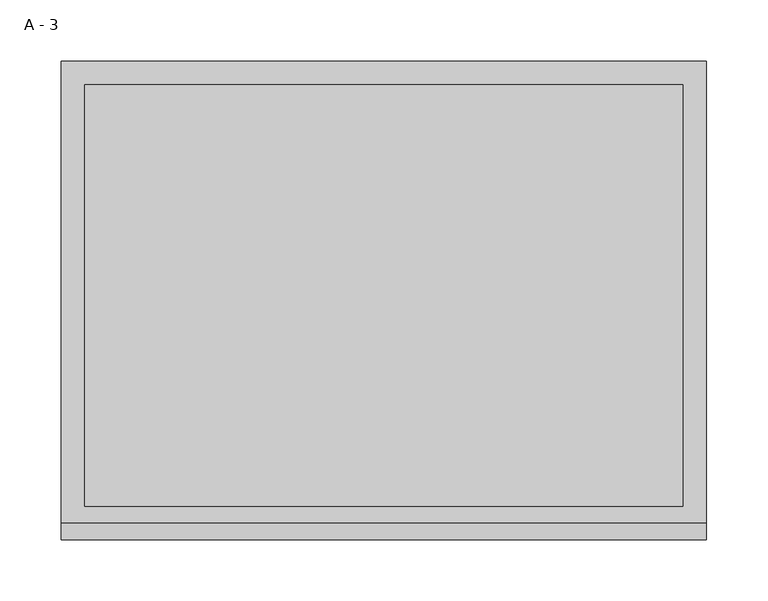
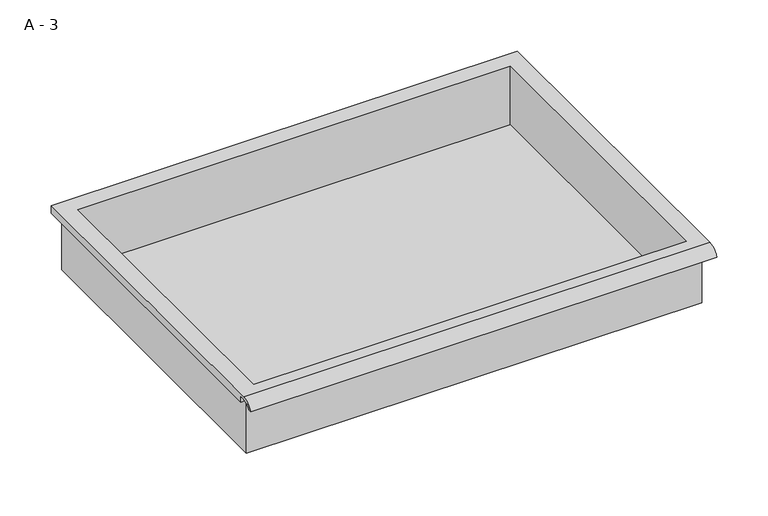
"""IFC4 building model written with IfcOpenShell, lengths in millimetres: furniture geometry, HermanMiller_CoStruc_CO207_Drawer : A - 3."""

from ifc_helpers import new_model, si_unit, frame, origin, place, context, project, spatial, polyline, circle_curve, source, transform, mapped, element, save
from ifc_brep_helpers import plane_surface, cylinder_surface, revolved_surface, advanced_brep


def a_3_e52fff41(model_context):
    return source(origin(), model_context, "Body", "AdvancedBrep", [
        advanced_brep(
        [(-257.1076517, -176.2125, 719.1502), (257.2423483, -176.2125, 719.1502), (257.2423483, -176.2125, 782.6502), (263.5923483, -176.2125, 782.6502), (263.5923483, -176.2125, 788.9573341), (-263.4576517, -176.2125, 788.9573341), (-263.4576517, -176.2125, 782.6502), (-257.1076517, -176.2125, 782.6502), (257.2423483, 185.7375, 719.1502), (-257.1076517, 185.7375, 719.1502), (-257.1076517, 185.7375, 782.6502), (257.2423483, 185.7375, 782.6502), (263.5923483, -181.6070544, 792.1752), (263.5923483, 195.2625, 792.1752), (-263.4576517, 195.2625, 792.1752), (-263.4576517, -181.6070544, 792.1752), (244.5423483, -168.275, 792.1752), (-244.4076517, -168.275, 792.1752), (-244.4076517, 176.2125, 792.1752), (244.5423483, 176.2125, 792.1752), (263.5923483, -195.2625, 782.6502), (263.5923483, -191.8280601, 782.6502), (263.5923483, -180.4714815, 788.9573341), (263.5923483, 195.2625, 782.6502), (-263.4576517, 195.2625, 782.6502), (-263.4576517, -180.4714815, 788.9573341), (-263.4576517, -191.8280601, 782.6502), (-263.4576517, -195.2625, 782.6502), (-244.4076517, -168.275, 722.1763719), (244.5423483, -168.275, 722.1763719), (244.5423483, 176.2125, 722.1763719), (-244.4076517, 176.2125, 722.1763719)],
        [
            (0, 1),
            (1, 2),
            (2, 3),
            (3, 4),
            (4, 5),
            (5, 6),
            (6, 7),
            (7, 0),
            (8, 9),
            (9, 10),
            (10, 11),
            (11, 8),
            (0, 9),
            (8, 1),
            (11, 2),
            (12, 13),
            (13, 14),
            (14, 15),
            (15, 12),
            (16, 17),
            (17, 18),
            (18, 19),
            (19, 16),
            (7, 10),
            (12, 20, circle_curve(frame((263.5923483, -181.6070544, 777.6241859), z_axis=(1.0, 0.0, 0.0), x_axis=(0.0, 1.0, 0.0)), 14.5510141)),
            (20, 21),
            (21, 22, circle_curve(frame((263.5923483, -181.6070544, 777.6241859), z_axis=(-1.0, 0.0, 0.0), x_axis=(0.0, 1.0, 0.0)), 11.3898979)),
            (22, 4),
            (3, 23),
            (23, 13),
            (14, 24),
            (24, 6),
            (5, 25),
            (25, 26, circle_curve(frame((-263.4576517, -181.6070544, 777.6241859), z_axis=(1.0, 0.0, 0.0), x_axis=(0.0, 1.0, 0.0)), 11.3898979)),
            (26, 27),
            (27, 15, circle_curve(frame((-263.4576517, -181.6070544, 777.6241859), z_axis=(-1.0, 0.0, 0.0), x_axis=(0.0, 1.0, 0.0)), 14.5510141)),
            (27, 20),
            (26, 21),
            (25, 22),
            (24, 23),
            (28, 29),
            (29, 30),
            (30, 31),
            (31, 28),
            (28, 17),
            (16, 29),
            (19, 30),
            (18, 31),
        ],
        [
            plane_surface(frame((257.2423483, -176.2125, 719.1502), z_axis=(0.0, -1.0, 0.0), x_axis=(1.0, 0.0, 0.0))),
            plane_surface(frame((257.2423483, 185.7375, 719.1502), z_axis=(0.0, 1.0, 0.0), x_axis=(-1.0, 0.0, 0.0))),
            plane_surface(frame((-257.1076517, -176.2125, 719.1502), z_axis=(0.0, 0.0, -1.0), x_axis=(0.0, 1.0, 0.0))),
            plane_surface(frame((257.2423483, -176.2125, 719.1502), z_axis=(1.0, 0.0, 0.0), x_axis=(0.0, 1.0, 0.0))),
            plane_surface(frame((257.2423483, -176.2125, 792.1752), z_axis=(0.0, 0.0, 1.0), x_axis=(0.0, 1.0, 0.0))),
            plane_surface(frame((-257.1076517, -176.2125, 792.1752), z_axis=(-1.0, 0.0, 0.0), x_axis=(0.0, 1.0, 0.0))),
            plane_surface(frame((263.5923483, 195.2625, 792.1752), z_axis=(1.0, 0.0, 0.0), x_axis=(0.0, -1.0, 0.0))),
            plane_surface(frame((-263.4576517, 195.2625, 792.1752), z_axis=(-1.0, 0.0, 0.0), x_axis=(0.0, 1.0, 0.0))),
            cylinder_surface(frame((-263.4576517, -181.6070544, 777.6241859), z_axis=(1.0, 0.0, 0.0), x_axis=(0.0, 1.0, 0.0)), 14.5510141),
            plane_surface(frame((263.5923483, -195.2625, 782.6502), z_axis=(0.0, 0.0, -1.0), x_axis=(-1.0, 0.0, 0.0))),
            revolved_surface(polyline([(-263.4576517, -170.21715650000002, 777.6241859), (263.59234829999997, -170.21715650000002, 777.6241859)]), (-263.4576517, -181.6070544, 777.6241859), (-1.0, 0.0, 0.0)),
            plane_surface(frame((263.5923483, -180.4714815, 788.9573341), z_axis=(0.0, 0.0, -1.0), x_axis=(-1.0, 0.0, 0.0))),
            plane_surface(frame((263.5923483, -176.2125, 782.6502), z_axis=(0.0, 0.0, -1.0), x_axis=(-1.0, 0.0, 0.0))),
            plane_surface(frame((263.5923483, 195.2625, 782.6502), z_axis=(0.0, 1.0, 0.0), x_axis=(-1.0, 0.0, 0.0))),
            plane_surface(frame((244.5423483, -168.275, 722.1763719), z_axis=(0.0, 0.0, 1.0), x_axis=(-1.0, 0.0, 0.0))),
            plane_surface(frame((-244.4076517, -168.275, 792.1752), z_axis=(0.0, 1.0, 0.0), x_axis=(0.0, 0.0, -1.0))),
            plane_surface(frame((244.5423483, -168.275, 792.1752), z_axis=(-1.0, 0.0, 0.0), x_axis=(0.0, 0.0, -1.0))),
            plane_surface(frame((244.5423483, 176.2125, 792.1752), z_axis=(0.0, -1.0, 0.0), x_axis=(0.0, 0.0, -1.0))),
            plane_surface(frame((-244.4076517, 176.2125, 792.1752), z_axis=(1.0, 0.0, 0.0), x_axis=(0.0, 0.0, -1.0))),
        ],
        [
            (0, [[1, 2, 3, 4, 5, 6, 7, 8]]),
            (1, [[9, 10, 11, 12]]),
            (2, [[-1, 13, -9, 14]]),
            (3, [[-14, -12, 15, -2]]),
            (4, [[16, 17, 18, 19], [20, 21, 22, 23]]),
            (5, [[-13, -8, 24, -10]]),
            (6, [[-16, 25, 26, 27, 28, -4, 29, 30]]),
            (7, [[31, 32, -6, 33, 34, 35, 36, -18]]),
            (8, [[-25, -19, -36, 37]]),
            (9, [[-26, -37, -35, 38]]),
            (10, [[-27, -38, -34, 39]]),
            (11, [[-28, -39, -33, -5]]),
            (12, [[-29, -3, -15, -11, -24, -7, -32, 40]]),
            (13, [[-30, -40, -31, -17]]),
            (14, [[41, 42, 43, 44]]),
            (15, [[-41, 45, -20, 46]]),
            (16, [[-42, -46, -23, 47]]),
            (17, [[-43, -47, -22, 48]]),
            (18, [[-44, -48, -21, -45]]),
        ],
    ),
    ])


if __name__ == "__main__":
    model = new_model("IFC4")
    model_context = context("Model", 3, world=origin())
    ifc_project = project(units=[si_unit("LENGTHUNIT", "METRE", prefix="MILLI")], contexts=[model_context])
    site = spatial("IfcSite", under=ifc_project)
    building = spatial("IfcBuilding", under=site)
    placement = place(None, origin())
    a_3_shape = a_3_e52fff41(model_context)
    element("IfcFurniture", 1, ObjectType="HermanMiller_CoStruc_CO207_Drawer : A - 3", at=placement, inside=building, context=model_context, shape_type="MappedRepresentation", body=[
        mapped(a_3_shape, transform((0.0, 0.0, 0.0), x_axis=(1.0, 0.0, 0.0), y_axis=(0.0, 1.0, 0.0), z_axis=(0.0, 0.0, 1.0))),
    ])
    save(model, "model.ifc")
